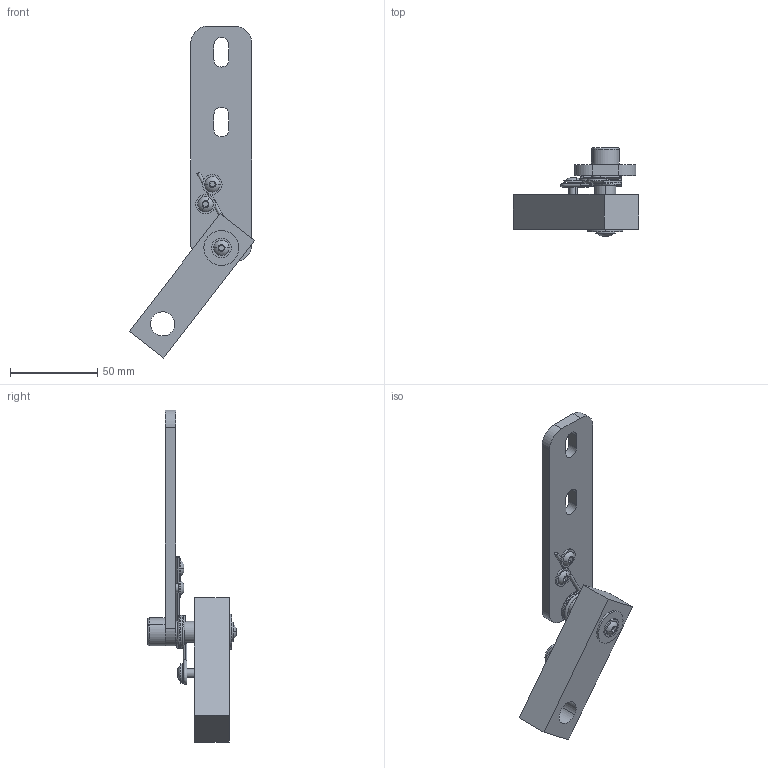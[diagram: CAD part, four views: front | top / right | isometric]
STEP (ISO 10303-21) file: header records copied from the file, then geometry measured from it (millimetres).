
FILE_DESCRIPTION (( 'STEP AP203' ), '1' );
FILE_NAME ('012_07_16L.STEP', '2026-01-03T15:47:32', ( '' ), ( '' ), 'SwSTEP 2.0', 'SolidWorks 2022', '' );
FILE_SCHEMA (( 'CONFIG_CONTROL_DESIGN' ));
Length unit declared in the file: millimetre
Products named in the file (1): 012_07_16L
Bounding box: 71.76 x 50.8 x 190.03 mm (x, y, z)
Volume: 69705 mm3; surface area: 25186 mm2
Topology: 3 solids, 8 shells, 215 faces, 537 edges, 345 vertices
Faces by surface type: plane 85, cylinder 76, cone 36, torus 14, bspline 4
Entity records: 10423 total; most frequent: CARTESIAN_POINT 5124, DIRECTION 1106, ORIENTED_EDGE 1066, EDGE_CURVE 533, AXIS2_PLACEMENT_3D 433, VERTEX_POINT 345, EDGE_LOOP 260, LINE 240
